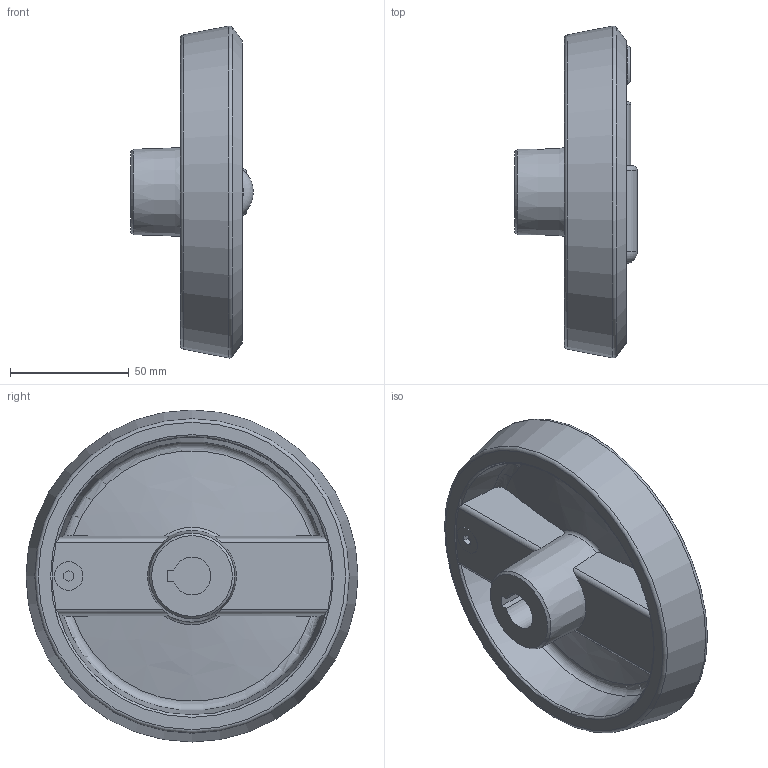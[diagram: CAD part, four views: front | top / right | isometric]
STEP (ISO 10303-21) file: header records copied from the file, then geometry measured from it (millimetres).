
FILE_DESCRIPTION( ( 'STEP AP203' ), '1' );
FILE_NAME( 'C:/Temp/Ganter_Step_05_03_2020/data/1_3/gn_923_7/gn_923_7_k/Handwheel with retractable handle GN 923.7-140-K16-R-SW (unactivated).stp', '2020-03-05T10:40:28', ( 'License CC BY-ND 4.0' ), ( 'CADENAS' ), ' ', 'PARTsolutions', ' ' );
FILE_SCHEMA( ( 'CONFIG_CONTROL_DESIGN' ) );
Length unit declared in the file: millimetre
Products named in the file (3): Handwheel with retractable handle GN 923.7-140-K16-R-SW (unactivated); _Umleggriff-Handrad GN 923.7-140-K16-R-SW-1; _Umleggriff-Handrad GN 923.7-140-K16-R-SW (0)-2
Assembly tree (2 placements, depth 2):
  Handwheel with retractable handle GN 923.7-140-K16-R-SW (unactivated)
    _Umleggriff-Handrad GN 923.7-140-K16-R-SW-1
    _Umleggriff-Handrad GN 923.7-140-K16-R-SW (0)-2
Bounding box: 51.7 x 140 x 140 mm (x, y, z)
Volume: 215631.5 mm3; surface area: 65413 mm2
Topology: 2 solids, 2 shells, 116 faces, 284 edges, 180 vertices
Faces by surface type: plane 50, cylinder 28, torus 15, cone 14, bspline 7, sphere 2
Full cylindrical faces by diameter (mm): 4 x2, 5 x1, 8 x1, 12 x1, 15 x1, 18.5 x1, 20 x1, 23 x2, 24 x1
Entity records: 3846 total; most frequent: CARTESIAN_POINT 1207, DIRECTION 519, ORIENTED_EDGE 500, EDGE_CURVE 250, AXIS2_PLACEMENT_3D 218, VERTEX_POINT 174, EDGE_LOOP 153, FACE_OUTER_BOUND 134
